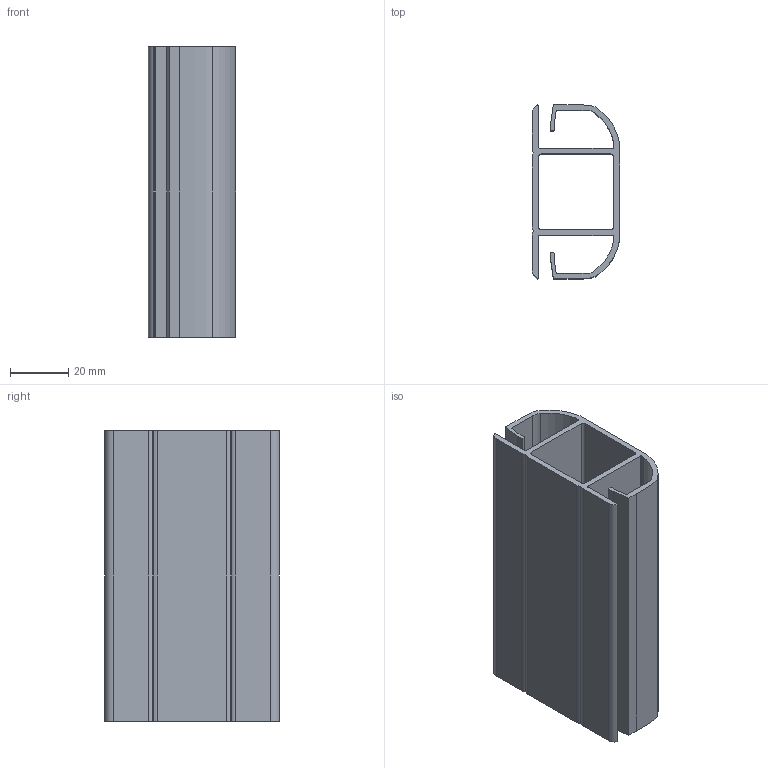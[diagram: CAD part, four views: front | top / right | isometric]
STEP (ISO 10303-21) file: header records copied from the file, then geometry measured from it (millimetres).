
FILE_DESCRIPTION (( 'STEP AP203' ), '1' );
FILE_NAME ('013.030.003.STEP', '2020-09-18T14:15:05', ( '' ), ( '' ), 'SwSTEP 2.0', 'SolidWorks 2018', '' );
FILE_SCHEMA (( 'CONFIG_CONTROL_DESIGN' ));
Length unit declared in the file: millimetre
Products named in the file (1): 013.030.003
Bounding box: 30 x 60 x 100 mm (x, y, z)
Volume: 41305.1 mm3; surface area: 43689.3 mm2
Topology: 1 solids, 1 shells, 60 faces, 174 edges, 116 vertices
Faces by surface type: plane 30, cylinder 26, bspline 4
Entity records: 2119 total; most frequent: CARTESIAN_POINT 427, ORIENTED_EDGE 348, DIRECTION 332, EDGE_CURVE 174, VERTEX_POINT 116, LINE 114, VECTOR 114, AXIS2_PLACEMENT_3D 109
